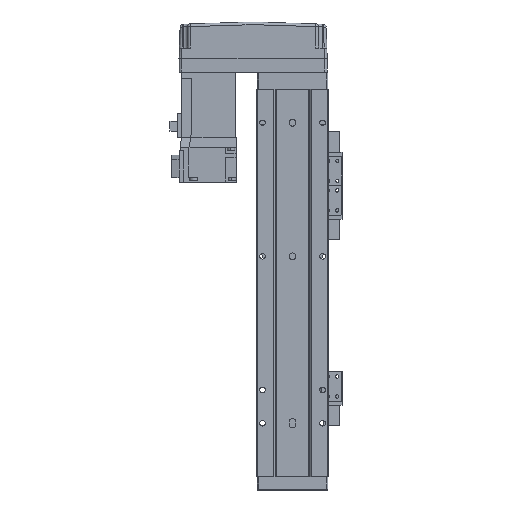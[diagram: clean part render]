
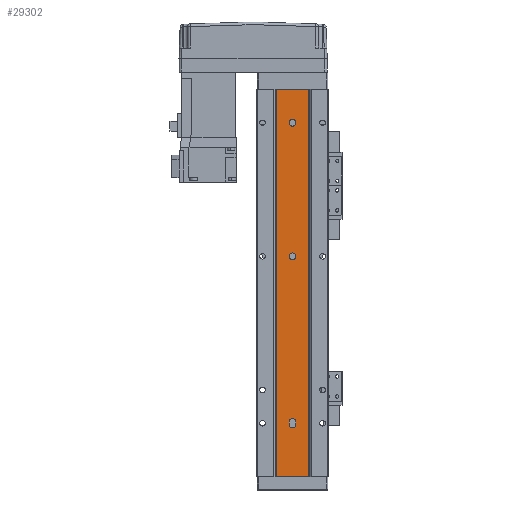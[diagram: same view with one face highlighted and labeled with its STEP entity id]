
A CAD part, front view. The second image highlights one B-rep face of the part: STEP entity #29302.
In plain terms, the highlighted planar face has unit normal (0, -1, 0).
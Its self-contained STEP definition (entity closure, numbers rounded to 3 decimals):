
#217 = CIRCLE ( 'NONE', #23795, 2.5 ) ;
#577 = ORIENTED_EDGE ( 'NONE', *, *, #19245, .F. ) ;
#616 = EDGE_CURVE ( 'NONE', #27891, #10685, #36111, .T. ) ;
#752 = VERTEX_POINT ( 'NONE', #24033 ) ;
#763 = VERTEX_POINT ( 'NONE', #9251 ) ;
#1605 = EDGE_LOOP ( 'NONE', ( #6280, #34972 ) ) ;
#1631 = CARTESIAN_POINT ( 'NONE',  ( -2.5, 1.5, -25. ) ) ;
#2410 = CARTESIAN_POINT ( 'NONE',  ( 0., 1.5, -251. ) ) ;
#2429 = VECTOR ( 'NONE', #4712, 1000. ) ;
#2636 = CIRCLE ( 'NONE', #27287, 2.5 ) ;
#3124 = AXIS2_PLACEMENT_3D ( 'NONE', #33624, #28127, #13358 ) ;
#3408 = DIRECTION ( 'NONE',  ( 0., -1., 0. ) ) ;
#3759 = DIRECTION ( 'NONE',  ( 1., 0., 0. ) ) ;
#3920 = VERTEX_POINT ( 'NONE', #30970 ) ;
#4076 = DIRECTION ( 'NONE',  ( 0., -1., 0. ) ) ;
#4609 = VERTEX_POINT ( 'NONE', #33555 ) ;
#4712 = DIRECTION ( 'NONE',  ( 0., 0., -1. ) ) ;
#4816 = LINE ( 'NONE', #35554, #28033 ) ;
#5429 = DIRECTION ( 'NONE',  ( 1., 0., 0. ) ) ;
#5925 = DIRECTION ( 'NONE',  ( 0., 0., 1. ) ) ;
#6255 = EDGE_CURVE ( 'NONE', #4609, #27891, #21537, .T. ) ;
#6280 = ORIENTED_EDGE ( 'NONE', *, *, #14719, .F. ) ;
#6825 = CARTESIAN_POINT ( 'NONE',  ( 0., 1.5, -125. ) ) ;
#7283 = DIRECTION ( 'NONE',  ( 0., -1., 0. ) ) ;
#7831 = EDGE_LOOP ( 'NONE', ( #8104, #25467, #15836, #27504 ) ) ;
#8104 = ORIENTED_EDGE ( 'NONE', *, *, #29510, .F. ) ;
#8507 = CIRCLE ( 'NONE', #16795, 2.5 ) ;
#8807 = VECTOR ( 'NONE', #5925, 1000. ) ;
#8957 = DIRECTION ( 'NONE',  ( 0., 0., 1. ) ) ;
#9157 = CARTESIAN_POINT ( 'NONE',  ( -12.293, 1.5, 0. ) ) ;
#9240 = DIRECTION ( 'NONE',  ( 0., -1., 0. ) ) ;
#9251 = CARTESIAN_POINT ( 'NONE',  ( 2.5, 1.5, -249. ) ) ;
#9364 = VERTEX_POINT ( 'NONE', #1631 ) ;
#9803 = EDGE_CURVE ( 'NONE', #14305, #3920, #11046, .T. ) ;
#10520 = EDGE_LOOP ( 'NONE', ( #13261, #13031 ) ) ;
#10685 = VERTEX_POINT ( 'NONE', #35183 ) ;
#10705 = FACE_BOUND ( 'NONE', #1605, .T. ) ;
#11046 = LINE ( 'NONE', #33863, #2429 ) ;
#11900 = CARTESIAN_POINT ( 'NONE',  ( 2.5, 1.5, -290. ) ) ;
#12782 = EDGE_CURVE ( 'NONE', #36600, #9364, #23120, .T. ) ;
#12919 = EDGE_CURVE ( 'NONE', #15031, #752, #2636, .T. ) ;
#13002 = DIRECTION ( 'NONE',  ( 1., 0., 0. ) ) ;
#13031 = ORIENTED_EDGE ( 'NONE', *, *, #17129, .F. ) ;
#13078 = CARTESIAN_POINT ( 'NONE',  ( -2.5, 1.5, -249. ) ) ;
#13261 = ORIENTED_EDGE ( 'NONE', *, *, #12782, .F. ) ;
#13358 = DIRECTION ( 'NONE',  ( 1., 0., 0. ) ) ;
#13591 = ORIENTED_EDGE ( 'NONE', *, *, #6255, .T. ) ;
#14305 = VERTEX_POINT ( 'NONE', #13078 ) ;
#14719 = EDGE_CURVE ( 'NONE', #752, #15031, #16886, .T. ) ;
#14743 = EDGE_CURVE ( 'NONE', #4609, #34427, #26898, .T. ) ;
#15031 = VERTEX_POINT ( 'NONE', #22440 ) ;
#15836 = ORIENTED_EDGE ( 'NONE', *, *, #35717, .F. ) ;
#15958 = CARTESIAN_POINT ( 'NONE',  ( 0., 1.5, -249. ) ) ;
#16093 = VECTOR ( 'NONE', #17097, 1000. ) ;
#16589 = CARTESIAN_POINT ( 'NONE',  ( 2.5, 1.5, -25. ) ) ;
#16795 = AXIS2_PLACEMENT_3D ( 'NONE', #15958, #7283, #13002 ) ;
#16886 = CIRCLE ( 'NONE', #23726, 2.5 ) ;
#17097 = DIRECTION ( 'NONE',  ( 1., 0., 0. ) ) ;
#17129 = EDGE_CURVE ( 'NONE', #9364, #36600, #20614, .T. ) ;
#17160 = CARTESIAN_POINT ( 'NONE',  ( 0., 1.5, -25. ) ) ;
#19245 = EDGE_CURVE ( 'NONE', #34427, #10685, #4816, .T. ) ;
#20087 = DIRECTION ( 'NONE',  ( 0., -1., 0. ) ) ;
#20614 = CIRCLE ( 'NONE', #3124, 2.5 ) ;
#21073 = CARTESIAN_POINT ( 'NONE',  ( 0., 1.5, -125. ) ) ;
#21537 = LINE ( 'NONE', #34552, #16093 ) ;
#21553 = AXIS2_PLACEMENT_3D ( 'NONE', #24560, #4076, #35722 ) ;
#22440 = CARTESIAN_POINT ( 'NONE',  ( -2.5, 1.5, -125. ) ) ;
#23120 = CIRCLE ( 'NONE', #32448, 2.5 ) ;
#23364 = LINE ( 'NONE', #11900, #8807 ) ;
#23456 = CARTESIAN_POINT ( 'NONE',  ( 12.293, 1.5, -290. ) ) ;
#23726 = AXIS2_PLACEMENT_3D ( 'NONE', #6825, #3408, #30410 ) ;
#23795 = AXIS2_PLACEMENT_3D ( 'NONE', #2410, #25451, #5429 ) ;
#23814 = VECTOR ( 'NONE', #8957, 1000. ) ;
#24033 = CARTESIAN_POINT ( 'NONE',  ( 2.5, 1.5, -125. ) ) ;
#24491 = VERTEX_POINT ( 'NONE', #31311 ) ;
#24560 = CARTESIAN_POINT ( 'NONE',  ( 12.293, 1.5, -290. ) ) ;
#24605 = VECTOR ( 'NONE', #30653, 1000. ) ;
#25035 = CARTESIAN_POINT ( 'NONE',  ( -12.293, 1.5, -290. ) ) ;
#25451 = DIRECTION ( 'NONE',  ( 0., -1., 0. ) ) ;
#25467 = ORIENTED_EDGE ( 'NONE', *, *, #9803, .F. ) ;
#25776 = FACE_BOUND ( 'NONE', #7831, .T. ) ;
#26241 = FACE_OUTER_BOUND ( 'NONE', #34395, .T. ) ;
#26898 = LINE ( 'NONE', #25035, #24605 ) ;
#27141 = ORIENTED_EDGE ( 'NONE', *, *, #14743, .F. ) ;
#27287 = AXIS2_PLACEMENT_3D ( 'NONE', #21073, #9240, #32571 ) ;
#27339 = PLANE ( 'NONE',  #21553 ) ;
#27504 = ORIENTED_EDGE ( 'NONE', *, *, #37342, .F. ) ;
#27891 = VERTEX_POINT ( 'NONE', #32513 ) ;
#28033 = VECTOR ( 'NONE', #3759, 1000. ) ;
#28127 = DIRECTION ( 'NONE',  ( 0., -1., 0. ) ) ;
#29302 = ADVANCED_FACE ( 'NONE', ( #25776, #10705, #33990, #26241 ), #27339, .T. ) ;
#29510 = EDGE_CURVE ( 'NONE', #3920, #24491, #217, .T. ) ;
#30410 = DIRECTION ( 'NONE',  ( 1., 0., 0. ) ) ;
#30653 = DIRECTION ( 'NONE',  ( 0., 0., 1. ) ) ;
#30970 = CARTESIAN_POINT ( 'NONE',  ( -2.5, 1.5, -251. ) ) ;
#31311 = CARTESIAN_POINT ( 'NONE',  ( 2.5, 1.5, -251. ) ) ;
#31686 = DIRECTION ( 'NONE',  ( 1., 0., 0. ) ) ;
#32448 = AXIS2_PLACEMENT_3D ( 'NONE', #17160, #20087, #31686 ) ;
#32513 = CARTESIAN_POINT ( 'NONE',  ( 12.293, 1.5, -290. ) ) ;
#32571 = DIRECTION ( 'NONE',  ( 1., 0., 0. ) ) ;
#32988 = ORIENTED_EDGE ( 'NONE', *, *, #616, .T. ) ;
#33555 = CARTESIAN_POINT ( 'NONE',  ( -12.293, 1.5, -290. ) ) ;
#33624 = CARTESIAN_POINT ( 'NONE',  ( 0., 1.5, -25. ) ) ;
#33863 = CARTESIAN_POINT ( 'NONE',  ( -2.5, 1.5, -290. ) ) ;
#33990 = FACE_BOUND ( 'NONE', #10520, .T. ) ;
#34395 = EDGE_LOOP ( 'NONE', ( #577, #27141, #13591, #32988 ) ) ;
#34427 = VERTEX_POINT ( 'NONE', #9157 ) ;
#34552 = CARTESIAN_POINT ( 'NONE',  ( 12.293, 1.5, -290. ) ) ;
#34972 = ORIENTED_EDGE ( 'NONE', *, *, #12919, .F. ) ;
#35183 = CARTESIAN_POINT ( 'NONE',  ( 12.293, 1.5, 0. ) ) ;
#35554 = CARTESIAN_POINT ( 'NONE',  ( 12.293, 1.5, 0. ) ) ;
#35717 = EDGE_CURVE ( 'NONE', #763, #14305, #8507, .T. ) ;
#35722 = DIRECTION ( 'NONE',  ( 1., 0., 0. ) ) ;
#36111 = LINE ( 'NONE', #23456, #23814 ) ;
#36600 = VERTEX_POINT ( 'NONE', #16589 ) ;
#37342 = EDGE_CURVE ( 'NONE', #24491, #763, #23364, .T. ) ;
